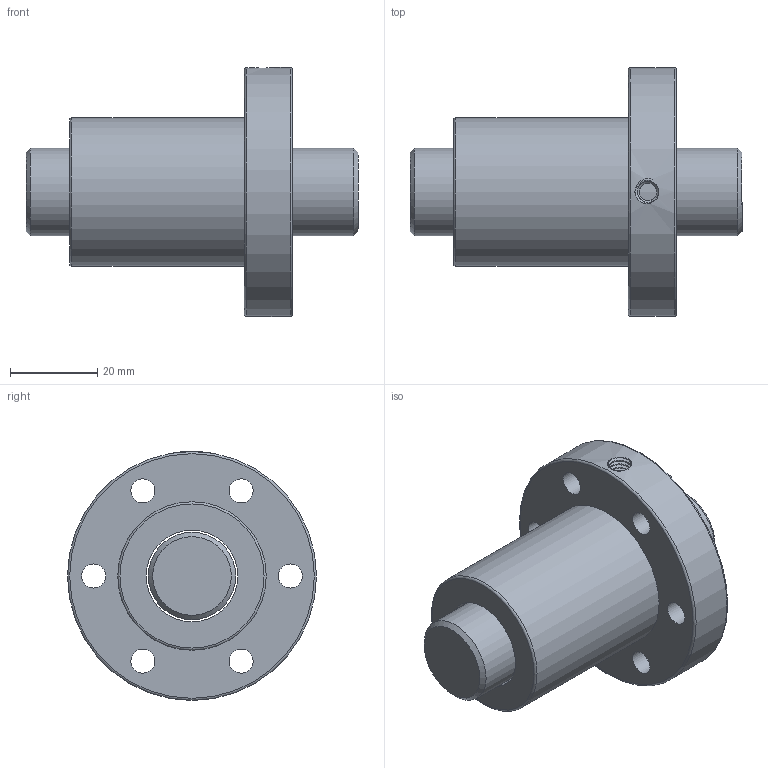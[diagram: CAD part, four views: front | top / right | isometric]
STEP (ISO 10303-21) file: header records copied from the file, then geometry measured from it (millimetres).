
FILE_DESCRIPTION(/* description */ ('Unknown','CAx-IF Rec.Pracs.---Representation and Presentation of Product Manufacturing Information (PMI)---4.0---2014-10-13','CAx-IF Rec.Pracs.---3D Tessellated Geometry---0.4---2014-09-14','2;1'),/* implementation_level */ '2;1');
FILE_NAME(/* name */ 'SFI0205T-4',/* time_stamp */ '2020-12-06T18:48:55+08:00',/* author */ ('Unknown'),/* organization */ ('Unknown'),/* preprocessor_version */ 'ST-DEVELOPER v16.7',/* originating_system */ 'Solid Edge',/* authorisation */ 'Unknown');
FILE_SCHEMA (('AP242_MANAGED_MODEL_BASED_3D_ENGINEERING_MIM_LF { 1 0 10303 442 1 1 4 }'));
Length unit declared in the file: millimetre
Products named in the file (1): SFI0205T-4
Bounding box: 76 x 57 x 57 mm (x, y, z)
Volume: 67110 mm3; surface area: 20787.6 mm2
Topology: 2 solids, 2 shells, 39 faces, 83 edges, 55 vertices
Faces by surface type: cylinder 19, plane 12, torus 3, cone 3, bspline 2
Full cylindrical faces by diameter (mm): 4 x1, 5.5 x6, 9.5 x6, 20 x1, 21 x1, 34 x1, 57 x1
Entity records: 2614 total; most frequent: CARTESIAN_POINT 1795, DIRECTION 164, ORIENTED_EDGE 104, EDGE_LOOP 85, FACE_BOUND 85, AXIS2_PLACEMENT_3D 83, EDGE_CURVE 52, VERTEX_POINT 47
